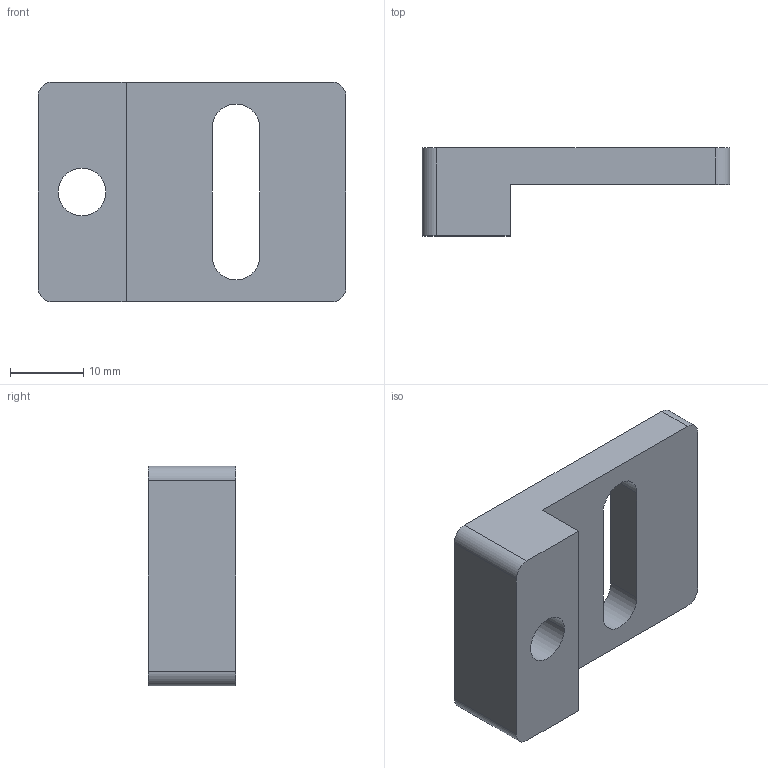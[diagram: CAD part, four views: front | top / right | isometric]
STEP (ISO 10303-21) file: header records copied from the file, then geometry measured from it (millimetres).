
FILE_DESCRIPTION((''),'2;1');
FILE_NAME('FIPA_1','2002-12-27T',('Lipro doo'),('Lipro d.o.o.'),'PRO/ENGINEER BY PARAMETRIC TECHNOLOGY CORPORATION, 2001150','PRO/ENGINEER BY PARAMETRIC TECHNOLOGY CORPORATION, 2001150','');
FILE_SCHEMA(('CONFIG_CONTROL_DESIGN'));
Length unit declared in the file: millimetre
Products named in the file (1): FIPA_1
Bounding box: 42 x 12 x 30 mm (x, y, z)
Volume: 7658 mm3; surface area: 3953.9 mm2
Topology: 1 solids, 1 shells, 18 faces, 48 edges, 32 vertices
Faces by surface type: plane 10, cylinder 8
Entity records: 614 total; most frequent: DIRECTION 100, CARTESIAN_POINT 98, ORIENTED_EDGE 96, EDGE_CURVE 48, AXIS2_PLACEMENT_3D 34, VECTOR 32, LINE 32, VERTEX_POINT 32
